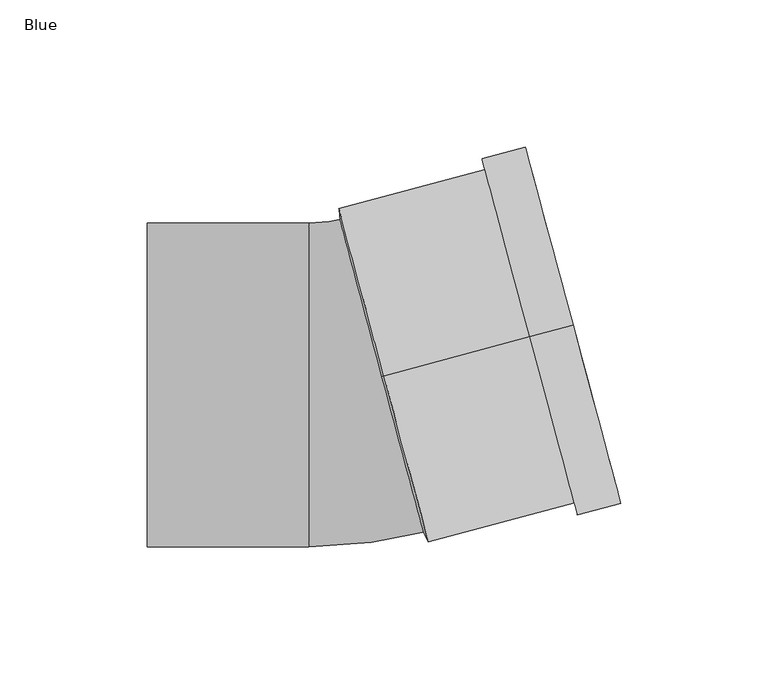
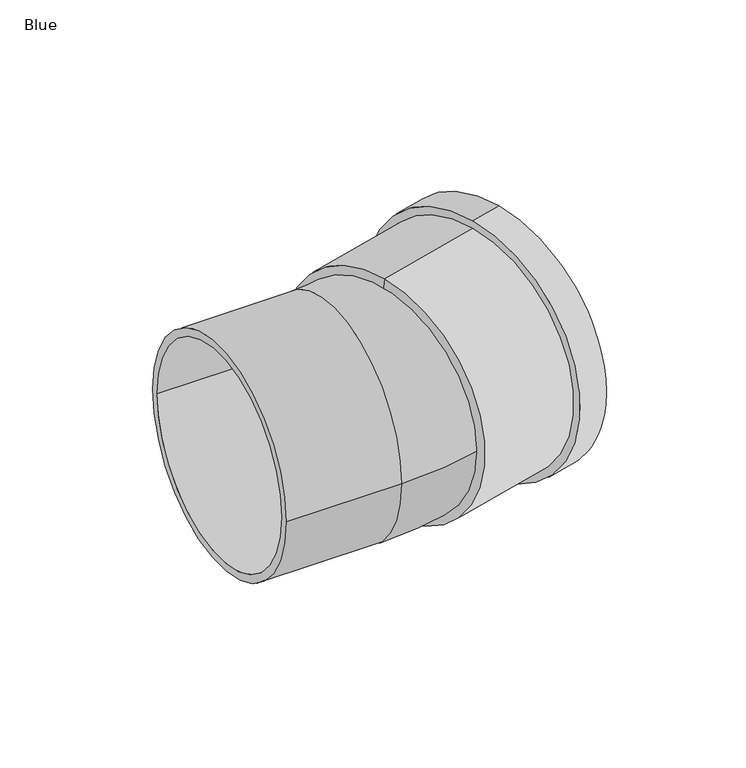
"""IFC4 building model written with IfcOpenShell, lengths in millimetres: pipe fitting geometry, AWADUKT PP SN10 Bend : Blue."""

import ifcopenshell
import ifcopenshell.guid

model = None  # the IFC model being written
_history = None  # IfcOwnerHistory: only IFC2X3 demands one
_inside = {}  # id of a spatial element -> (the spatial element, [elements in it])
_under = {}  # id of a project, library or spatial element -> (it, [spatial elements below it])
_declared = {}  # id of a project -> (the project, [libraries it declares])
_typed = {}  # id of a type object -> (the type object, [elements of that type])
_made_of = {}  # id of a material, layer set ... -> (it, [elements and type objects made of it])


def new_model(schema):
    """Start an empty IFC model of exactly this schema.

    Asked for "IFC4X3", IfcOpenShell would pick the latest addendum, in which some entities
    have other attributes; the version numbers below select the first issue.
    IFC2X3 requires an IfcOwnerHistory on every rooted entity: one is made here for all.
    """
    global model, _history
    if schema == "IFC4X3":
        model = ifcopenshell.file(schema_version=(4, 3, 0, 0))
    else:
        model = ifcopenshell.file(schema=schema)
    _inside.clear()
    _under.clear()
    _declared.clear()
    _typed.clear()
    _made_of.clear()
    _history = None
    if model.schema == "IFC2X3":
        org = make("IfcOrganization", Name="unknown")
        user = make(
            "IfcPersonAndOrganization",
            ThePerson=make("IfcPerson", FamilyName="unknown"),
            TheOrganization=org,
        )
        app = make(
            "IfcApplication",
            ApplicationDeveloper=org,
            Version="unknown",
            ApplicationFullName="unknown",
            ApplicationIdentifier="unknown",
        )
        _history = make(
            "IfcOwnerHistory",
            OwningUser=user,
            OwningApplication=app,
            ChangeAction="ADDED",
            CreationDate=0,
        )
    return model


def make(cls, **values):
    """One entity of the class cls with the attributes given. An attribute that is None is left unset."""
    return model.create_entity(
        cls, **{name: value for name, value in values.items() if value is not None}
    )


def rooted(cls, **values):
    """An entity with a GlobalId (a new one), such as an element, a storey or a relation."""
    return make(cls, GlobalId=ifcopenshell.guid.new(), OwnerHistory=_history, **values)


def si_unit(unit_type, name, prefix=None):
    """IfcSIUnit, for example si_unit("LENGTHUNIT", "METRE", prefix="MILLI")."""
    return make("IfcSIUnit", UnitType=unit_type, Prefix=prefix, Name=name)


def assignment(units):
    """IfcUnitAssignment: the units of a project."""
    return None if units is None else make("IfcUnitAssignment", Units=units)


def point(xyz):
    """IfcCartesianPoint."""
    return None if xyz is None else make("IfcCartesianPoint", Coordinates=xyz)


def direction(xyz):
    """IfcDirection."""
    return None if xyz is None else make("IfcDirection", DirectionRatios=xyz)


def frame(location, z_axis=None, x_axis=None):
    """IfcAxis2Placement3D, a coordinate frame: its origin and axes. An axis left out is left unset."""
    return make(
        "IfcAxis2Placement3D",
        Location=point(location),
        Axis=direction(z_axis),
        RefDirection=direction(x_axis),
    )


def origin():
    """The frame at (0, 0, 0) with its axes left unset."""
    return frame((0.0, 0.0, 0.0))


def place(relative_to, where):
    """IfcLocalPlacement: puts the frame where relative to a parent placement (None: the world)."""
    return make(
        "IfcLocalPlacement", PlacementRelTo=relative_to, RelativePlacement=where
    )


def context(
    kind, dimensions, precision=None, world=None, true_north=None, identifier=None
):
    """IfcGeometricRepresentationContext, for example the 3D "Model" context."""
    return make(
        "IfcGeometricRepresentationContext",
        ContextIdentifier=identifier,
        ContextType=kind,
        CoordinateSpaceDimension=dimensions,
        Precision=precision,
        WorldCoordinateSystem=world,
        TrueNorth=true_north,
    )


def project(units=None, contexts=None):
    """IfcProject with its units and contexts."""
    return rooted(
        "IfcProject",
        Name="project",
        RepresentationContexts=contexts,
        UnitsInContext=assignment(units),
    )


def spatial(cls, under=None, at=None, **own):
    """A site, building, storey or space (cls), placed at a placement, below another one or the project."""
    s = rooted(cls, ObjectPlacement=at, **own)
    if under is not None:
        _under.setdefault(under.id(), (under, []))[1].append(s)
    return s


def polyline(points):
    """IfcPolyline through the points."""
    return make("IfcPolyline", Points=[point(p) for p in points])


def circle_curve(where, radius):
    """IfcCircle in the frame where."""
    return make("IfcCircle", Position=where, Radius=radius)


def ellipse_curve(where, semi_axis1, semi_axis2):
    """IfcEllipse in the frame where."""
    return make(
        "IfcEllipse", Position=where, SemiAxis1=semi_axis1, SemiAxis2=semi_axis2
    )


def trimmed(basis, trim1, trim2, sense, master):
    """IfcTrimmedCurve: the piece of a basis curve between two trims."""
    return make(
        "IfcTrimmedCurve",
        BasisCurve=basis,
        Trim1=trim1,
        Trim2=trim2,
        SenseAgreement=sense,
        MasterRepresentation=master,
    )


def shape(context_of_items, identifier, shape_type, items):
    """IfcShapeRepresentation: the items that make up one representation, for example the "Body"."""
    return make(
        "IfcShapeRepresentation",
        ContextOfItems=context_of_items,
        RepresentationIdentifier=identifier,
        RepresentationType=shape_type,
        Items=items,
    )


def source(mapping_origin, context_of_items, identifier, shape_type, items):
    """IfcRepresentationMap: a shape defined once, which mapped items show again and again."""
    return make(
        "IfcRepresentationMap",
        MappingOrigin=mapping_origin,
        MappedRepresentation=shape(context_of_items, identifier, shape_type, items),
    )


def transform(
    local_origin,
    x_axis=None,
    y_axis=None,
    z_axis=None,
    scale=None,
    scale2=None,
    scale3=None,
    uniform=True,
):
    """IfcCartesianTransformationOperator3D, or its non-uniform kind. x_axis, y_axis, z_axis: its Axis1, 2, 3."""
    if uniform:
        return make(
            "IfcCartesianTransformationOperator3D",
            Axis1=direction(x_axis),
            Axis2=direction(y_axis),
            LocalOrigin=point(local_origin),
            Scale=scale,
            Axis3=direction(z_axis),
        )
    return make(
        "IfcCartesianTransformationOperator3DnonUniform",
        Axis1=direction(x_axis),
        Axis2=direction(y_axis),
        LocalOrigin=point(local_origin),
        Scale=scale,
        Axis3=direction(z_axis),
        Scale2=scale2,
        Scale3=scale3,
    )


def mapped(mapping_source, mapping_target):
    """IfcMappedItem: shows the shape of a source again, moved by a transform."""
    return make(
        "IfcMappedItem", MappingSource=mapping_source, MappingTarget=mapping_target
    )


def made_of(thing, what):
    """Note that an element or type object is made of a material, layer set ...; save() writes the relation."""
    if what is not None:
        _made_of.setdefault(what.id(), (what, []))[1].append(thing)
    return thing


def element(
    cls,
    number,
    at=None,
    inside=None,
    cuts=None,
    type_object=None,
    material=None,
    context=None,
    identifier="Body",
    shape_type=None,
    held_by="IfcProductDefinitionShape",
    body=None,
    shapes=None,
    **own,
):
    """One element of the class cls, such as IfcWall. Its Tag is "e" and its number.

    at: its placement. inside: the storey or other place that contains it. cuts: it is an
    opening in that element (IfcRelVoidsElement). A single representation is given by context,
    identifier, shape_type and body (its items); several are given by shapes. held_by: the class
    of the entity that holds the representations. save() writes the other relations.
    """
    e = rooted(cls, Tag="e%d" % number, ObjectPlacement=at, **own)
    if body is not None:
        shapes = [shape(context, identifier, shape_type, body)]
    if shapes is not None:
        e.Representation = make(held_by, Representations=shapes)
    if inside is not None:
        _inside.setdefault(inside.id(), (inside, []))[1].append(e)
    if cuts is not None:
        rooted(
            "IfcRelVoidsElement", RelatingBuildingElement=cuts, RelatedOpeningElement=e
        )
    if type_object is not None:
        _typed.setdefault(type_object.id(), (type_object, []))[1].append(e)
    return made_of(e, material)


def aggregate(whole, parts):
    """IfcRelAggregates: a whole, such as a stair, and the parts it consists of."""
    return rooted("IfcRelAggregates", RelatingObject=whole, RelatedObjects=parts)


def save(model, path):
    """Write the relations noted so far, then the file.

    IfcRelAggregates (storeys below a building ...), IfcRelContainedInSpatialStructure (elements
    in a storey), IfcRelDefinesByType, IfcRelAssociatesMaterial and IfcRelDeclares: one each for
    every whole, place, type object, material and project.
    """
    for whole, parts in _under.values():
        aggregate(whole, parts)
    for where, things in _inside.values():
        rooted(
            "IfcRelContainedInSpatialStructure",
            RelatedElements=things,
            RelatingStructure=where,
        )
    for kind, things in _typed.values():
        rooted("IfcRelDefinesByType", RelatedObjects=things, RelatingType=kind)
    for what, things in _made_of.values():
        rooted("IfcRelAssociatesMaterial", RelatedObjects=things, RelatingMaterial=what)
    for by, libraries in _declared.values():
        rooted("IfcRelDeclares", RelatingContext=by, RelatedDefinitions=libraries)
    model.write(path)


def plane_surface(at):
    """IfcPlane: the flat surface through the origin of the frame at, square to its z axis."""
    return make("IfcPlane", Position=at)


def cylinder_surface(at, radius):
    """IfcCylindricalSurface: all points at the distance radius from the z axis of the frame at."""
    return make("IfcCylindricalSurface", Position=at, Radius=radius)


def revolved_surface(curve, axis_point, axis_direction):
    """IfcSurfaceOfRevolution: the curve turned about the line through axis_point along axis_direction."""
    return make(
        "IfcSurfaceOfRevolution",
        SweptCurve=make("IfcArbitraryOpenProfileDef", ProfileType="CURVE", Curve=curve),
        AxisPosition=make("IfcAxis1Placement", Location=point(axis_point), Axis=direction(axis_direction)),
    )


def advanced_brep(points, edges, surfaces, faces):
    """IfcAdvancedBrep: a solid bounded by faces that lie on surfaces and meet in shared edges.

    An edge is (start, end): straight between two places in points (the first is 0);
    or (start, end, curve); or (start, end, curve, False) where it runs against its curve.
    A face is (place in surfaces, loops), or (place, loops, False) where it looks against
    its surface's normal. A loop lists edges by number (the first is 1), with a minus sign
    where the edge is run from its end to its start. The first loop is the outer one.
    """
    corners = [point(p) for p in points]
    vertices = [make("IfcVertexPoint", VertexGeometry=c) for c in corners]
    made = []
    for start, end, *more in edges:
        made.append(
            make(
                "IfcEdgeCurve",
                EdgeStart=vertices[start],
                EdgeEnd=vertices[end],
                EdgeGeometry=more[0] if more else make("IfcPolyline", Points=[corners[start], corners[end]]),
                SameSense=more[1] if len(more) > 1 else True,
            )
        )
    hull = []
    for where, loops, *sense in faces:
        bounds = []
        for j, loop in enumerate(loops):
            ring = [make("IfcOrientedEdge", EdgeElement=made[abs(k) - 1], Orientation=k > 0) for k in loop]
            bounds.append(
                make(
                    "IfcFaceOuterBound" if j == 0 else "IfcFaceBound",
                    Bound=make("IfcEdgeLoop", EdgeList=ring),
                    Orientation=True,
                )
            )
        hull.append(make("IfcAdvancedFace", Bounds=bounds, FaceSurface=surfaces[where], SameSense=sense[0] if sense else True))
    return make("IfcAdvancedBrep", Outer=make("IfcClosedShell", CfsFaces=hull))


def blue_119fea42(model_context):
    return source(origin(), model_context, "Body", "AdvancedBrep", [
        advanced_brep(
        [(60.8533271, 16.3055998, 58.8), (60.8533271, 16.3055998, -58.8), (11.2834277, 3.0233853, -58.8), (11.2834277, 3.0233853, 58.8), (75.5353996, 20.2396493, 62.6), (75.5353996, 20.2396493, -62.6), (60.8533271, 16.3055998, -62.6), (60.8533271, 16.3055998, 62.6), (71.8648815, 19.256137, 55.0), (71.8648815, 19.256137, -55.0), (75.5353996, 20.2396493, -55.0), (75.5353996, 20.2396493, 55.0), (64.5238452, 17.2891122, 58.8), (64.5238452, 17.2891122, -58.8), (71.8648815, 19.256137, -58.8), (71.8648815, 19.256137, 58.8), (14.3633581, 3.8486502, 55.0), (14.3633581, 3.8486502, -55.0), (64.5238452, 17.2891122, -55.0), (64.5238452, 17.2891122, 55.0), (13.7161467, 3.6752304, 51.2), (13.7161467, 3.6752304, -51.2), (9.9890049, 2.6765458, 51.2), (9.9890049, 2.6765458, -51.2)],
        [
            (0, 1, circle_curve(frame((60.8533271, 16.3055998, 0.0), z_axis=(-0.9659258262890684, -0.2588190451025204, 0.0), x_axis=(0.0, 0.0, -1.0)), 58.8)),
            (1, 2),
            (2, 3, circle_curve(frame((11.2834277, 3.0233853, 0.0), z_axis=(0.9659258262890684, 0.2588190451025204, 0.0), x_axis=(0.0, 0.0, -1.0)), 58.8)),
            (3, 0),
            (4, 5, circle_curve(frame((75.5353996, 20.2396493, 0.0), z_axis=(-0.9659258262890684, -0.2588190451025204, 0.0), x_axis=(0.0, 0.0, -1.0)), 62.6)),
            (5, 6),
            (6, 7, circle_curve(frame((60.8533271, 16.3055998, 0.0), z_axis=(0.9659258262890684, 0.2588190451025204, 0.0), x_axis=(0.0, 0.0, -1.0)), 62.6)),
            (7, 4),
            (8, 9, circle_curve(frame((71.8648815, 19.256137, 0.0), z_axis=(-0.9659258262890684, -0.2588190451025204, 0.0), x_axis=(0.0, 0.0, -1.0)), 55.0)),
            (9, 10),
            (10, 11, circle_curve(frame((75.5353996, 20.2396493, 0.0), z_axis=(0.9659258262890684, 0.2588190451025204, 0.0), x_axis=(0.0, 0.0, -1.0)), 55.0)),
            (11, 8),
            (12, 13, circle_curve(frame((64.5238452, 17.2891122, 0.0), z_axis=(-0.9659258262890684, -0.2588190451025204, 0.0), x_axis=(0.0, 0.0, -1.0)), 58.8)),
            (13, 14),
            (14, 15, circle_curve(frame((71.8648815, 19.256137, 0.0), z_axis=(0.9659258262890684, 0.2588190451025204, 0.0), x_axis=(0.0, 0.0, -1.0)), 58.8)),
            (15, 12),
            (16, 17, circle_curve(frame((14.3633581, 3.8486502, 0.0), z_axis=(-0.9659258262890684, -0.2588190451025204, 0.0), x_axis=(0.0, 0.0, -1.0)), 55.0)),
            (17, 18),
            (18, 19, circle_curve(frame((64.5238452, 17.2891122, 0.0), z_axis=(0.9659258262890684, 0.2588190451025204, 0.0), x_axis=(0.0, 0.0, -1.0)), 55.0)),
            (19, 16),
            (20, 21, circle_curve(frame((13.7161467, 3.6752304, 0.0), z_axis=(-0.9659258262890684, -0.2588190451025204, 0.0), x_axis=(0.0, 0.0, -1.0)), 51.2)),
            (21, 17),
            (16, 20),
            (22, 23, circle_curve(frame((9.9890049, 2.6765458, 0.0), z_axis=(-0.9659258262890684, -0.2588190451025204, 0.0), x_axis=(0.0, 0.0, -1.0)), 51.2)),
            (23, 21),
            (20, 22),
            (2, 23),
            (22, 3),
            (1, 0, circle_curve(frame((60.8533271, 16.3055998, 0.0), z_axis=(-0.9659258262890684, -0.2588190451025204, 0.0), x_axis=(0.0, 0.0, 1.0)), 58.8)),
            (3, 2, circle_curve(frame((11.2834277, 3.0233853, 0.0), z_axis=(0.9659258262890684, 0.2588190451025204, 0.0), x_axis=(0.0, 0.0, 1.0)), 58.8)),
            (6, 7, circle_curve(frame((60.8533271, 16.3055998, 0.0), z_axis=(-0.9659258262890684, -0.2588190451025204, 0.0), x_axis=(0.0, 0.0, 1.0)), 62.6)),
            (5, 4, circle_curve(frame((75.5353996, 20.2396493, 0.0), z_axis=(-0.9659258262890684, -0.2588190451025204, 0.0), x_axis=(0.0, 0.0, 1.0)), 62.6)),
            (10, 11, circle_curve(frame((75.5353996, 20.2396493, 0.0), z_axis=(-0.9659258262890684, -0.2588190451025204, 0.0), x_axis=(0.0, 0.0, 1.0)), 55.0)),
            (9, 8, circle_curve(frame((71.8648815, 19.256137, 0.0), z_axis=(-0.9659258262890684, -0.2588190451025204, 0.0), x_axis=(0.0, 0.0, 1.0)), 55.0)),
            (14, 15, circle_curve(frame((71.8648815, 19.256137, 0.0), z_axis=(-0.9659258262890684, -0.2588190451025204, 0.0), x_axis=(0.0, 0.0, 1.0)), 58.8)),
            (13, 12, circle_curve(frame((64.5238452, 17.2891122, 0.0), z_axis=(-0.9659258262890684, -0.2588190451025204, 0.0), x_axis=(0.0, 0.0, 1.0)), 58.8)),
            (18, 19, circle_curve(frame((64.5238452, 17.2891122, 0.0), z_axis=(-0.9659258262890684, -0.2588190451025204, 0.0), x_axis=(0.0, 0.0, 1.0)), 55.0)),
            (17, 16, circle_curve(frame((14.3633581, 3.8486502, 0.0), z_axis=(-0.9659258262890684, -0.2588190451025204, 0.0), x_axis=(0.0, 0.0, 1.0)), 55.0)),
            (21, 20, circle_curve(frame((13.7161467, 3.6752304, 0.0), z_axis=(-0.9659258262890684, -0.2588190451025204, 0.0), x_axis=(0.0, 0.0, 1.0)), 51.2)),
            (23, 22, circle_curve(frame((9.9890049, 2.6765458, 0.0), z_axis=(-0.9659258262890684, -0.2588190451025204, 0.0), x_axis=(0.0, 0.0, 1.0)), 51.2)),
        ],
        [
            cylinder_surface(frame((13.7161467, 3.6752304, 0.0), z_axis=(0.9659258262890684, 0.2588190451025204, 0.0), x_axis=(0.0, 0.0, -1.0)), 58.8),
            cylinder_surface(frame((13.7161467, 3.6752304, 0.0), z_axis=(0.9659258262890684, 0.2588190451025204, 0.0), x_axis=(0.0, 0.0, -1.0)), 62.6),
            revolved_surface(polyline([(75.53539960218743, 20.239649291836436, -55.0), (71.86488151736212, 19.256136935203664, -55.0)]), (13.7161467, 3.6752304, 0.0), (0.9659258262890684, 0.2588190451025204, 0.0)),
            revolved_surface(polyline([(71.86488151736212, 19.256136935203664, -58.8), (64.52384520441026, 17.28911218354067, -58.8)]), (13.7161467, 3.6752304, 0.0), (0.9659258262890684, 0.2588190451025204, 0.0)),
            revolved_surface(polyline([(64.52384520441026, 17.28911218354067, -55.0), (14.363358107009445, 3.848650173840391, -55.0)]), (13.7161467, 3.6752304, 0.0), (0.9659258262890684, 0.2588190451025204, 0.0)),
            revolved_surface(polyline([(14.3633581, 3.8486502, -55.0), (13.7161467, 3.6752304, -51.2)]), (13.7161467, 3.6752304, 0.0), (0.9659258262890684, 0.2588190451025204, 0.0)),
            revolved_surface(polyline([(13.7161467, 3.6752304, -51.2), (9.989004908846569, 2.6765457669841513, -51.2)]), (13.7161467, 3.6752304, 0.0), (0.9659258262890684, 0.2588190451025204, 0.0)),
            revolved_surface(polyline([(9.9890049, 2.6765458, -51.2), (11.2834277, 3.0233853, -58.8)]), (13.7161467, 3.6752304, 0.0), (0.9659258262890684, 0.2588190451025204, 0.0)),
            cylinder_surface(frame((13.7161467, 3.6752304, 0.0), z_axis=(0.9659258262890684, 0.2588190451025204, 0.0), x_axis=(0.0, 0.0, 1.0)), 58.8),
            plane_surface(frame((60.8533271, 16.3055998, 0.0), z_axis=(-0.9659258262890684, -0.2588190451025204, 0.0), x_axis=(0.0, 0.0, 1.0))),
            cylinder_surface(frame((13.7161467, 3.6752304, 0.0), z_axis=(0.9659258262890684, 0.2588190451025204, 0.0), x_axis=(0.0, 0.0, 1.0)), 62.6),
            plane_surface(frame((75.5353996, 20.2396493, 0.0), z_axis=(0.9659258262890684, 0.2588190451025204, 0.0), x_axis=(0.0, 0.0, 1.0))),
            revolved_surface(polyline([(75.53539960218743, 20.239649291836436, 55.0), (71.86488151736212, 19.256136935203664, 55.0)]), (13.7161467, 3.6752304, 0.0), (0.9659258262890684, 0.2588190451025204, 0.0)),
            plane_surface(frame((71.8648815, 19.256137, 0.0), z_axis=(-0.9659258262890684, -0.2588190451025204, 0.0), x_axis=(0.0, 0.0, 1.0))),
            revolved_surface(polyline([(71.86488151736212, 19.256136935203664, 58.8), (64.52384520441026, 17.28911218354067, 58.8)]), (13.7161467, 3.6752304, 0.0), (0.9659258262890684, 0.2588190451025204, 0.0)),
            plane_surface(frame((64.5238452, 17.2891122, 0.0), z_axis=(0.9659258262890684, 0.2588190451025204, 0.0), x_axis=(0.0, 0.0, 1.0))),
            revolved_surface(polyline([(64.52384520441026, 17.28911218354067, 55.0), (14.363358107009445, 3.848650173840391, 55.0)]), (13.7161467, 3.6752304, 0.0), (0.9659258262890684, 0.2588190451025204, 0.0)),
            revolved_surface(polyline([(14.3633581, 3.8486502, 55.0), (13.7161467, 3.6752304, 51.2)]), (13.7161467, 3.6752304, 0.0), (0.9659258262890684, 0.2588190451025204, 0.0)),
            revolved_surface(polyline([(13.7161467, 3.6752304, 51.2), (9.989004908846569, 2.6765457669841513, 51.2)]), (13.7161467, 3.6752304, 0.0), (0.9659258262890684, 0.2588190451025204, 0.0)),
            revolved_surface(polyline([(9.9890049, 2.6765458, 51.2), (11.2834277, 3.0233853, 58.8)]), (13.7161467, 3.6752304, 0.0), (0.9659258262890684, 0.2588190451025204, 0.0)),
        ],
        [
            (0, [[1, 2, 3, 4]]),
            (1, [[5, 6, 7, 8]]),
            (2, [[9, 10, 11, 12]]),
            (3, [[13, 14, 15, 16]]),
            (4, [[17, 18, 19, 20]]),
            (5, [[21, 22, -17, 23]]),
            (6, [[24, 25, -21, 26]]),
            (7, [[-3, 27, -24, 28]]),
            (8, [[29, -4, 30, -2]]),
            (9, [[31, -7], [-29, -1]]),
            (10, [[32, -8, -31, -6]]),
            (11, [[-32, -5], [33, -11]]),
            (12, [[34, -12, -33, -10]]),
            (13, [[35, -15], [-34, -9]]),
            (14, [[36, -16, -35, -14]]),
            (15, [[-36, -13], [37, -19]]),
            (16, [[38, -20, -37, -18]]),
            (17, [[39, -23, -38, -22]]),
            (18, [[40, -26, -39, -25]]),
            (19, [[-30, -28, -40, -27]]),
        ],
    ),
        advanced_brep(
        [(-69.0, -55.0, 0.0), (-69.0, 55.0, 0.0), (-69.0, -51.2, 0.0), (-69.0, 51.2, 0.0), (27.9511942, -49.45069, 0.0), (-0.5189007, 56.8011509, 0.0), (26.9676818, -45.7801719, 0.0), (0.4646116, 53.1306327, 0.0), (-14.2, -51.2, 0.0), (-14.2, 51.2, 0.0), (-14.2, -55.0, 0.0), (-14.2, 55.0, 0.0)],
        [
            (0, 1, circle_curve(frame((-69.0, 0.0, 0.0), z_axis=(-1.0, 0.0, 0.0), x_axis=(0.0, 1.0, 0.0)), 55.0)),
            (1, 0, circle_curve(frame((-69.0, 0.0, 0.0), z_axis=(-1.0, 0.0, 0.0), x_axis=(0.0, 1.0, 0.0)), 55.0)),
            (2, 3, circle_curve(frame((-69.0, 0.0, 0.0), z_axis=(1.0, 0.0, 0.0), x_axis=(0.0, 1.0, 0.0)), 51.2)),
            (3, 2, circle_curve(frame((-69.0, 0.0, 0.0), z_axis=(1.0, 0.0, 0.0), x_axis=(0.0, 1.0, 0.0)), 51.2)),
            (4, 5, circle_curve(frame((13.7161467, 3.6752304, 0.0), z_axis=(0.9659258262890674, 0.25881904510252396, 0.0), x_axis=(-0.25881904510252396, 0.9659258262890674, 0.0)), 55.0)),
            (5, 4, circle_curve(frame((13.7161467, 3.6752304, 0.0), z_axis=(0.9659258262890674, 0.25881904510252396, 0.0), x_axis=(-0.25881904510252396, 0.9659258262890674, 0.0)), 55.0)),
            (6, 7, circle_curve(frame((13.7161467, 3.6752304, 0.0), z_axis=(-0.9659258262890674, -0.25881904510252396, 0.0), x_axis=(-0.25881904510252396, 0.9659258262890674, 0.0)), 51.2)),
            (7, 6, circle_curve(frame((13.7161467, 3.6752304, 0.0), z_axis=(-0.9659258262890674, -0.25881904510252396, 0.0), x_axis=(-0.25881904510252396, 0.9659258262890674, 0.0)), 51.2)),
            (2, 8),
            (8, 9, circle_curve(frame((-14.2, 0.0, 0.0), z_axis=(1.0, 0.0, 0.0), x_axis=(0.0, 1.0, 0.0)), 51.2)),
            (9, 3),
            (9, 8, circle_curve(frame((-14.2, 0.0, 0.0), z_axis=(1.0, 0.0, 0.0), x_axis=(0.0, 1.0, 0.0)), 51.2)),
            (0, 10),
            (10, 11, circle_curve(frame((-14.2, 0.0, 0.0), z_axis=(-1.0, 0.0, 0.0), x_axis=(0.0, 1.0, 0.0)), 55.0)),
            (11, 1),
            (11, 10, circle_curve(frame((-14.2, 0.0, 0.0), z_axis=(-1.0, 0.0, 0.0), x_axis=(0.0, 1.0, 0.0)), 55.0)),
            (7, 9, circle_curve(frame((-14.2, 107.8597084, 0.0), z_axis=(0.0, 0.0, -1.0), x_axis=(0.0, -1.0, 0.0)), 56.6597084)),
            (8, 6, circle_curve(frame((-14.2, 107.8597084, 0.0), z_axis=(0.0, 0.0, 1.0), x_axis=(0.0, -1.0, 0.0)), 159.0597084)),
            (5, 11, circle_curve(frame((-14.2, 107.8597084, 0.0), z_axis=(0.0, 0.0, -1.0), x_axis=(0.0, -1.0, 0.0)), 52.8597084)),
            (10, 4, circle_curve(frame((-14.2, 107.8597084, 0.0), z_axis=(0.0, 0.0, 1.0), x_axis=(0.0, -1.0, 0.0)), 162.8597084)),
        ],
        [
            plane_surface(frame((-69.0, 0.0, 0.0), z_axis=(-1.0, 0.0, 0.0), x_axis=(0.0, 0.0, 1.0))),
            plane_surface(frame((13.7161467, 3.6752304, 0.0), z_axis=(0.9659258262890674, 0.25881904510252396, 0.0), x_axis=(0.0, 0.0, 1.0))),
            revolved_surface(polyline([(-14.200000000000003, 51.2, 0.0), (-69.0, 51.2, 0.0)]), (-69.0, 0.0, 0.0), (1.0, 0.0, 0.0)),
            cylinder_surface(frame((-69.0, 0.0, 0.0), z_axis=(-1.0, 0.0, 0.0), x_axis=(0.0, 1.0, 0.0)), 55.0),
            revolved_surface(trimmed(ellipse_curve(frame((-14.2, 0.0, 0.0), z_axis=(1.0, 0.0, 0.0), x_axis=(0.0, 1.0, 0.0)), 51.2, 51.2), [point((-14.2, -51.2, 0.0))], [point((-14.2, 51.2, 0.0))], True, "CARTESIAN"), (-14.2, 107.8597084, 0.0), (0.0, 0.0, 1.0)),
            revolved_surface(trimmed(ellipse_curve(frame((-14.2, 0.0, 0.0), z_axis=(1.0, 0.0, 0.0), x_axis=(0.0, 1.0, 0.0)), 51.2, 51.2), [point((-14.2, 51.2, 0.0))], [point((-14.2, -51.2, 0.0))], True, "CARTESIAN"), (-14.2, 107.8597084, 0.0), (0.0, 0.0, 1.0)),
            revolved_surface(trimmed(ellipse_curve(frame((-14.2, 0.0, 0.0), z_axis=(-1.0, 0.0, 0.0), x_axis=(0.0, 1.0, 0.0)), 55.0, 55.0), [point((-14.2, -55.0, 0.0))], [point((-14.2, 55.0, 0.0))], True, "CARTESIAN"), (-14.2, 107.8597084, 0.0), (0.0, 0.0, 1.0)),
            revolved_surface(trimmed(ellipse_curve(frame((-14.2, 0.0, 0.0), z_axis=(-1.0, 0.0, 0.0), x_axis=(0.0, 1.0, 0.0)), 55.0, 55.0), [point((-14.2, 55.0, 0.0))], [point((-14.2, -55.0, 0.0))], True, "CARTESIAN"), (-14.2, 107.8597084, 0.0), (0.0, 0.0, 1.0)),
        ],
        [
            (0, [[1, 2], [3, 4]]),
            (1, [[5, 6], [7, 8]]),
            (2, [[-3, 9, 10, 11]]),
            (2, [[-4, -11, 12, -9]]),
            (3, [[-1, 13, 14, 15]]),
            (3, [[-2, -15, 16, -13]]),
            (4, [[17, -10, 18, -8]]),
            (5, [[-18, -12, -17, -7]]),
            (6, [[19, -14, 20, -6]]),
            (7, [[-20, -16, -19, -5]]),
        ],
    ),
    ])


if __name__ == "__main__":
    model = new_model("IFC4")
    model_context = context("Model", 3, world=origin())
    ifc_project = project(units=[si_unit("LENGTHUNIT", "METRE", prefix="MILLI")], contexts=[model_context])
    site = spatial("IfcSite", under=ifc_project)
    building = spatial("IfcBuilding", under=site)
    placement = place(None, origin())
    blue_shape = blue_119fea42(model_context)
    element("IfcPipeFitting", 1, ObjectType="AWADUKT PP SN10 Bend : Blue", at=placement, inside=building, context=model_context, shape_type="MappedRepresentation", body=[
        mapped(blue_shape, transform((0.0, 0.0, 0.0), x_axis=(1.0, 0.0, 0.0), y_axis=(0.0, 1.0, 0.0), z_axis=(0.0, 0.0, 1.0))),
    ])
    save(model, "model.ifc")
